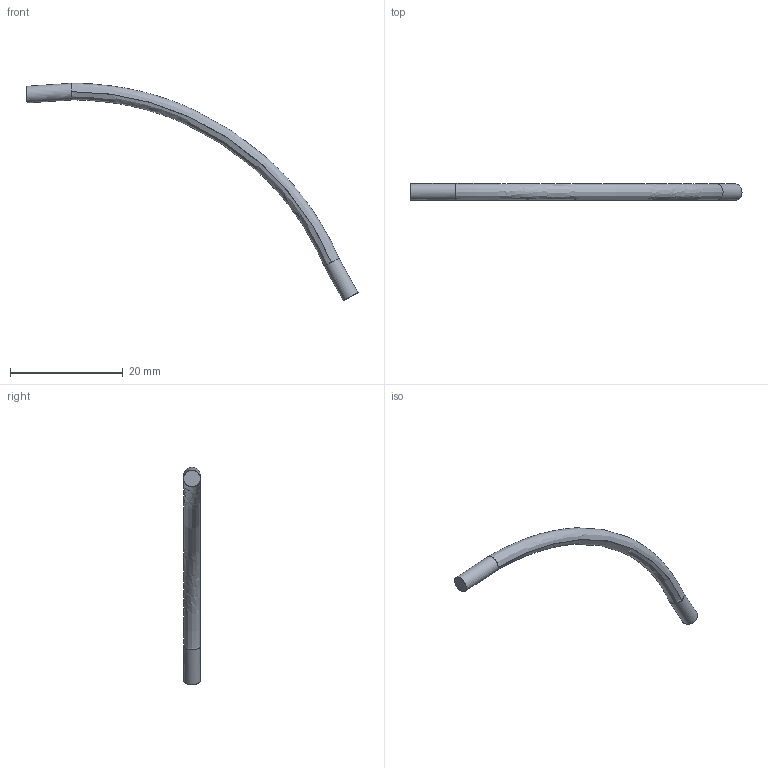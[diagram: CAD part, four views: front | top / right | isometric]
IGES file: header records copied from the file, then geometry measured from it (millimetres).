
Start section: C
Global section: file name: Black_4614226_AVV.iges; native system: By Siemens PLM Incorporated; preprocessor: XPlus GENERIC/IGES 26.1.183; author: Author; organization: Title; date: 20250721.234809; units: millimetre
Bounding box: 58.97 x 2.96 x 38.61 mm (x, y, z)
Surface area: 697.7 mm2 (no closed solid volume)
Topology: 0 solids, 0 shells, 5 faces, 26 edges, 26 vertices
Faces by surface type: bspline 5
